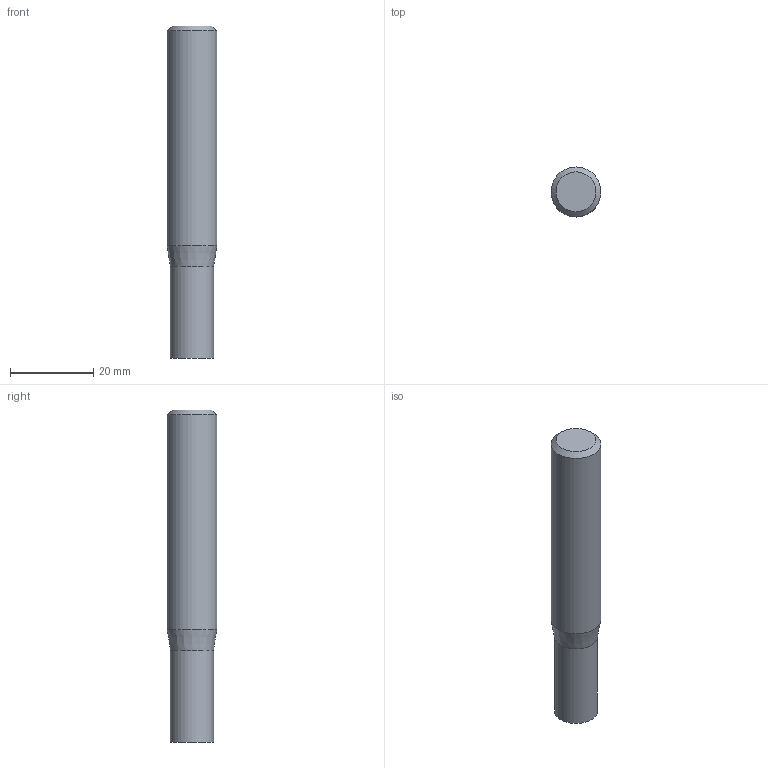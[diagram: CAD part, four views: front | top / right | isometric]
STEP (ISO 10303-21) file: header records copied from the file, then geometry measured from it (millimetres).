
FILE_DESCRIPTION((''),'2;1');
FILE_NAME('C:\Users\nsx150\AppData\Local\Temp\Mastercam 2021\98T1Q6BTT1\TEMP.step','2021-10-21T14:50:10',(''),(''),'STEP Write','Mastercam 2021 ... CNC Software, Inc.','');
FILE_SCHEMA(('AUTOMOTIVE_DESIGN'));
Length unit declared in the file: millimetre
Products named in the file (1): None
Bounding box: 12 x 12 x 80 mm (x, y, z)
Volume: 8330.4 mm3; surface area: 3234.4 mm2
Topology: 2 solids, 2 shells, 8 faces, 10 edges, 6 vertices
Faces by surface type: plane 4, cylinder 2, cone 2
Full cylindrical faces by diameter (mm): 10.4 x1, 12 x1
Entity records: 190 total; most frequent: DIRECTION 32, CARTESIAN_POINT 22, AXIS2_PLACEMENT_3D 16, ORIENTED_EDGE 12, EDGE_LOOP 12, STYLED_ITEM 11, ADVANCED_FACE 8, VERTEX_POINT 6
